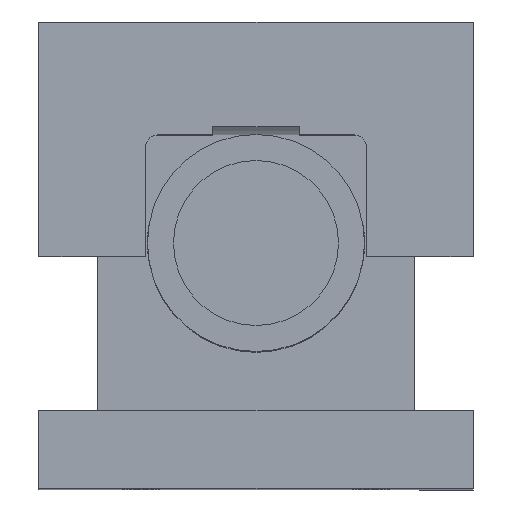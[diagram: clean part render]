
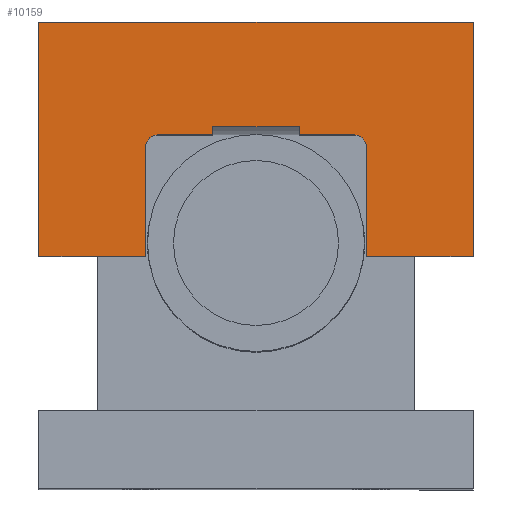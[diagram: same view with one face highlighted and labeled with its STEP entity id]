
A CAD part, top view. The second image highlights one B-rep face of the part: STEP entity #10159.
In plain terms, the highlighted planar face has unit normal (0, 0, 1).
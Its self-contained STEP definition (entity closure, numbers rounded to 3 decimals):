
#58 = EDGE_CURVE ( 'NONE', #13600, #6504, #2006, .T. ) ;
#211 = EDGE_CURVE ( 'NONE', #6504, #11290, #10693, .T. ) ;
#225 = LINE ( 'NONE', #1429, #6441 ) ;
#433 = EDGE_CURVE ( 'NONE', #6133, #2070, #4920, .T. ) ;
#513 = CARTESIAN_POINT ( 'NONE',  ( -50., 26., 9.5 ) ) ;
#555 = VERTEX_POINT ( 'NONE', #2123 ) ;
#641 = VECTOR ( 'NONE', #8405, 1000. ) ;
#768 = LINE ( 'NONE', #13717, #8841 ) ;
#821 = EDGE_CURVE ( 'NONE', #3407, #13500, #3945, .T. ) ;
#943 = DIRECTION ( 'NONE',  ( -1., 0., 0. ) ) ;
#992 = CARTESIAN_POINT ( 'NONE',  ( -25.5, -28., 9.5 ) ) ;
#1256 = VERTEX_POINT ( 'NONE', #12366 ) ;
#1290 = LINE ( 'NONE', #3535, #7152 ) ;
#1429 = CARTESIAN_POINT ( 'NONE',  ( -10., -2.125, 9.5 ) ) ;
#1474 = ORIENTED_EDGE ( 'NONE', *, *, #6191, .T. ) ;
#1495 = DIRECTION ( 'NONE',  ( 0., -1., 0. ) ) ;
#1515 = EDGE_CURVE ( 'NONE', #11290, #3407, #6821, .T. ) ;
#1644 = ORIENTED_EDGE ( 'NONE', *, *, #58, .T. ) ;
#1821 = ORIENTED_EDGE ( 'NONE', *, *, #8599, .T. ) ;
#1919 = DIRECTION ( 'NONE',  ( 0., 1., 0. ) ) ;
#2006 = LINE ( 'NONE', #6277, #8323 ) ;
#2070 = VERTEX_POINT ( 'NONE', #9590 ) ;
#2123 = CARTESIAN_POINT ( 'NONE',  ( -50., -28., 9.5 ) ) ;
#2261 = ORIENTED_EDGE ( 'NONE', *, *, #5459, .T. ) ;
#2356 = VERTEX_POINT ( 'NONE', #7035 ) ;
#2361 = CARTESIAN_POINT ( 'NONE',  ( -10., 0., 9.5 ) ) ;
#2631 = FACE_OUTER_BOUND ( 'NONE', #12991, .T. ) ;
#2678 = CARTESIAN_POINT ( 'NONE',  ( 10., 1.875, 9.5 ) ) ;
#3051 = CARTESIAN_POINT ( 'NONE',  ( -22.5, -3., 9.5 ) ) ;
#3162 = DIRECTION ( 'NONE',  ( 0., 0., -1. ) ) ;
#3188 = DIRECTION ( 'NONE',  ( 0., 1., 0. ) ) ;
#3392 = CARTESIAN_POINT ( 'NONE',  ( 25.5, -28., 9.5 ) ) ;
#3407 = VERTEX_POINT ( 'NONE', #12478 ) ;
#3410 = VECTOR ( 'NONE', #13033, 1000. ) ;
#3535 = CARTESIAN_POINT ( 'NONE',  ( -50., -28., 9.5 ) ) ;
#3636 = VECTOR ( 'NONE', #1919, 1000. ) ;
#3649 = ORIENTED_EDGE ( 'NONE', *, *, #9171, .T. ) ;
#3945 = LINE ( 'NONE', #9099, #7408 ) ;
#4114 = CARTESIAN_POINT ( 'NONE',  ( 50., 26., 9.5 ) ) ;
#4172 = ORIENTED_EDGE ( 'NONE', *, *, #821, .T. ) ;
#4184 = DIRECTION ( 'NONE',  ( 0., 0., -1. ) ) ;
#4308 = LINE ( 'NONE', #10823, #3410 ) ;
#4446 = DIRECTION ( 'NONE',  ( 0., -1., 0. ) ) ;
#4493 = ORIENTED_EDGE ( 'NONE', *, *, #10826, .T. ) ;
#4667 = PLANE ( 'NONE',  #7870 ) ;
#4920 = LINE ( 'NONE', #9181, #3636 ) ;
#5054 = LINE ( 'NONE', #9320, #641 ) ;
#5459 = EDGE_CURVE ( 'NONE', #6132, #11655, #768, .T. ) ;
#5544 = VERTEX_POINT ( 'NONE', #2361 ) ;
#5908 = VECTOR ( 'NONE', #11003, 1000. ) ;
#5992 = DIRECTION ( 'NONE',  ( -1., 0., 0. ) ) ;
#6132 = VERTEX_POINT ( 'NONE', #6514 ) ;
#6133 = VERTEX_POINT ( 'NONE', #992 ) ;
#6141 = CARTESIAN_POINT ( 'NONE',  ( -10., 1.875, 9.5 ) ) ;
#6191 = EDGE_CURVE ( 'NONE', #1256, #5544, #13075, .T. ) ;
#6277 = CARTESIAN_POINT ( 'NONE',  ( 10., -2.125, 9.5 ) ) ;
#6441 = VECTOR ( 'NONE', #1495, 1000. ) ;
#6478 = DIRECTION ( 'NONE',  ( 1., 0., 0. ) ) ;
#6504 = VERTEX_POINT ( 'NONE', #9143 ) ;
#6514 = CARTESIAN_POINT ( 'NONE',  ( 50., 26., 9.5 ) ) ;
#6546 = ORIENTED_EDGE ( 'NONE', *, *, #1515, .T. ) ;
#6821 = CIRCLE ( 'NONE', #10431, 3. ) ;
#7035 = CARTESIAN_POINT ( 'NONE',  ( -10., 1.875, 9.5 ) ) ;
#7108 = CARTESIAN_POINT ( 'NONE',  ( 0., 0., 9.5 ) ) ;
#7152 = VECTOR ( 'NONE', #4446, 1000. ) ;
#7408 = VECTOR ( 'NONE', #8200, 1000. ) ;
#7415 = DIRECTION ( 'NONE',  ( -1., 0., 0. ) ) ;
#7439 = VECTOR ( 'NONE', #3188, 1000. ) ;
#7565 = ORIENTED_EDGE ( 'NONE', *, *, #12174, .T. ) ;
#7787 = ORIENTED_EDGE ( 'NONE', *, *, #433, .T. ) ;
#7857 = VECTOR ( 'NONE', #6478, 1000. ) ;
#7870 = AXIS2_PLACEMENT_3D ( 'NONE', #7108, #11270, #5992 ) ;
#8200 = DIRECTION ( 'NONE',  ( 0., -1., 0. ) ) ;
#8262 = VERTEX_POINT ( 'NONE', #9639 ) ;
#8323 = VECTOR ( 'NONE', #10558, 1000. ) ;
#8367 = EDGE_CURVE ( 'NONE', #2356, #5544, #225, .T. ) ;
#8405 = DIRECTION ( 'NONE',  ( 1., 0., 0. ) ) ;
#8436 = LINE ( 'NONE', #4114, #7439 ) ;
#8599 = EDGE_CURVE ( 'NONE', #2356, #13600, #10499, .T. ) ;
#8700 = ORIENTED_EDGE ( 'NONE', *, *, #211, .T. ) ;
#8841 = VECTOR ( 'NONE', #9233, 1000. ) ;
#9099 = CARTESIAN_POINT ( 'NONE',  ( 25.5, -28., 9.5 ) ) ;
#9112 = EDGE_CURVE ( 'NONE', #2070, #1256, #11712, .T. ) ;
#9143 = CARTESIAN_POINT ( 'NONE',  ( 10., 0., 9.5 ) ) ;
#9171 = EDGE_CURVE ( 'NONE', #8262, #6132, #8436, .T. ) ;
#9181 = CARTESIAN_POINT ( 'NONE',  ( -25.5, 0., 9.5 ) ) ;
#9233 = DIRECTION ( 'NONE',  ( -1., 0., 0. ) ) ;
#9320 = CARTESIAN_POINT ( 'NONE',  ( -50., -28., 9.5 ) ) ;
#9590 = CARTESIAN_POINT ( 'NONE',  ( -25.5, -3., 9.5 ) ) ;
#9639 = CARTESIAN_POINT ( 'NONE',  ( 50., -28., 9.5 ) ) ;
#9762 = CARTESIAN_POINT ( 'NONE',  ( 22.5, 0., 9.5 ) ) ;
#9763 = ORIENTED_EDGE ( 'NONE', *, *, #13463, .T. ) ;
#9838 = CARTESIAN_POINT ( 'NONE',  ( 25.5, 0., 9.5 ) ) ;
#10123 = AXIS2_PLACEMENT_3D ( 'NONE', #3051, #4184, #943 ) ;
#10159 = ADVANCED_FACE ( 'NONE', ( #2631 ), #4667, .F. ) ;
#10347 = DIRECTION ( 'NONE',  ( 1., 0., 0. ) ) ;
#10431 = AXIS2_PLACEMENT_3D ( 'NONE', #11445, #3162, #7415 ) ;
#10499 = LINE ( 'NONE', #6141, #13664 ) ;
#10558 = DIRECTION ( 'NONE',  ( 0., -1., 0. ) ) ;
#10693 = LINE ( 'NONE', #9838, #7857 ) ;
#10781 = ORIENTED_EDGE ( 'NONE', *, *, #8367, .F. ) ;
#10823 = CARTESIAN_POINT ( 'NONE',  ( 50., -28., 9.5 ) ) ;
#10826 = EDGE_CURVE ( 'NONE', #13500, #8262, #4308, .T. ) ;
#11003 = DIRECTION ( 'NONE',  ( 1., 0., 0. ) ) ;
#11270 = DIRECTION ( 'NONE',  ( 0., 0., -1. ) ) ;
#11290 = VERTEX_POINT ( 'NONE', #9762 ) ;
#11445 = CARTESIAN_POINT ( 'NONE',  ( 22.5, -3., 9.5 ) ) ;
#11617 = ORIENTED_EDGE ( 'NONE', *, *, #9112, .T. ) ;
#11655 = VERTEX_POINT ( 'NONE', #513 ) ;
#11712 = CIRCLE ( 'NONE', #10123, 3. ) ;
#12174 = EDGE_CURVE ( 'NONE', #555, #6133, #5054, .T. ) ;
#12366 = CARTESIAN_POINT ( 'NONE',  ( -22.5, 0., 9.5 ) ) ;
#12478 = CARTESIAN_POINT ( 'NONE',  ( 25.5, -3., 9.5 ) ) ;
#12991 = EDGE_LOOP ( 'NONE', ( #10781, #1821, #1644, #8700, #6546, #4172, #4493, #3649, #2261, #9763, #7565, #7787, #11617, #1474 ) ) ;
#13033 = DIRECTION ( 'NONE',  ( 1., 0., 0. ) ) ;
#13075 = LINE ( 'NONE', #13272, #5908 ) ;
#13272 = CARTESIAN_POINT ( 'NONE',  ( 25.5, 0., 9.5 ) ) ;
#13463 = EDGE_CURVE ( 'NONE', #11655, #555, #1290, .T. ) ;
#13500 = VERTEX_POINT ( 'NONE', #3392 ) ;
#13600 = VERTEX_POINT ( 'NONE', #2678 ) ;
#13664 = VECTOR ( 'NONE', #10347, 1000. ) ;
#13717 = CARTESIAN_POINT ( 'NONE',  ( -50., 26., 9.5 ) ) ;
